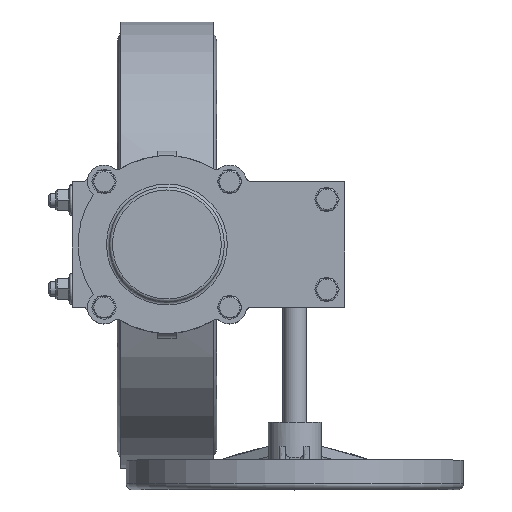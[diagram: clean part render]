
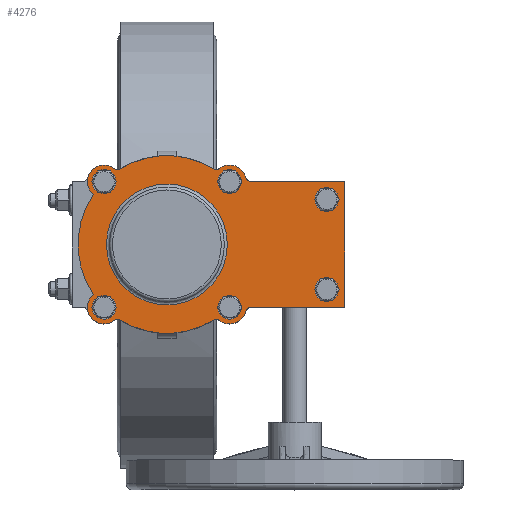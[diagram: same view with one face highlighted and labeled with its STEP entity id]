
A CAD part, top view. The second image highlights one B-rep face of the part: STEP entity #4276.
In plain terms, the highlighted planar face has unit normal (0, 0, 1).
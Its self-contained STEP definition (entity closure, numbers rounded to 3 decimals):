
#4276=ADVANCED_FACE('',(#8633,#8635,#8637,#8639,#8641,#8643,#8645,#8647),#8649,.T.);
#8633=FACE_BOUND('',#8634,.T.);
#8634=EDGE_LOOP('',(#15787,#15788,#15789,#15790,#15791,#15792,#15793,#15794,#15795,
#15796,#15797,#15798,#15799,#15800,#15801,#15802));
#8635=FACE_BOUND('',#8636,.T.);
#8636=EDGE_LOOP('',(#15803));
#8637=FACE_BOUND('',#8638,.T.);
#8638=EDGE_LOOP('',(#15804));
#8639=FACE_BOUND('',#8640,.T.);
#8640=EDGE_LOOP('',(#15805));
#8641=FACE_BOUND('',#8642,.T.);
#8642=EDGE_LOOP('',(#15806));
#8643=FACE_BOUND('',#8644,.T.);
#8644=EDGE_LOOP('',(#15807));
#8645=FACE_BOUND('',#8646,.T.);
#8646=EDGE_LOOP('',(#15808));
#8647=FACE_BOUND('',#8648,.T.);
#8648=EDGE_LOOP('',(#15809));
#8649=PLANE('',#8650);
#8650=AXIS2_PLACEMENT_3D('',#8651,#8652,#8653);
#8651=CARTESIAN_POINT('',(0.,0.,5.));
#8652=DIRECTION('',(0.,0.,1.));
#8653=DIRECTION('',(0.,1.,0.));
#15787=ORIENTED_EDGE('',*,*,#17778,.T.);
#15788=ORIENTED_EDGE('',*,*,#17779,.T.);
#15789=ORIENTED_EDGE('',*,*,#17780,.T.);
#15790=ORIENTED_EDGE('',*,*,#17781,.T.);
#15791=ORIENTED_EDGE('',*,*,#17782,.T.);
#15792=ORIENTED_EDGE('',*,*,#17783,.T.);
#15793=ORIENTED_EDGE('',*,*,#17784,.T.);
#15794=ORIENTED_EDGE('',*,*,#17785,.T.);
#15795=ORIENTED_EDGE('',*,*,#17786,.T.);
#15796=ORIENTED_EDGE('',*,*,#17787,.T.);
#15797=ORIENTED_EDGE('',*,*,#17788,.T.);
#15798=ORIENTED_EDGE('',*,*,#17789,.T.);
#15799=ORIENTED_EDGE('',*,*,#17790,.T.);
#15800=ORIENTED_EDGE('',*,*,#17791,.T.);
#15801=ORIENTED_EDGE('',*,*,#17792,.T.);
#15802=ORIENTED_EDGE('',*,*,#17793,.T.);
#15803=ORIENTED_EDGE('',*,*,#17794,.T.);
#15804=ORIENTED_EDGE('',*,*,#17795,.T.);
#15805=ORIENTED_EDGE('',*,*,#17796,.T.);
#15806=ORIENTED_EDGE('',*,*,#17797,.T.);
#15807=ORIENTED_EDGE('',*,*,#17798,.T.);
#15808=ORIENTED_EDGE('',*,*,#17799,.T.);
#15809=ORIENTED_EDGE('',*,*,#17800,.F.);
#17778=EDGE_CURVE('',#20291,#20292,#20293,.T.);
#17779=EDGE_CURVE('',#20292,#20294,#20295,.T.);
#17780=EDGE_CURVE('',#20294,#20296,#20297,.T.);
#17781=EDGE_CURVE('',#20296,#20298,#20299,.T.);
#17782=EDGE_CURVE('',#20298,#20300,#20301,.T.);
#17783=EDGE_CURVE('',#20300,#20302,#20303,.T.);
#17784=EDGE_CURVE('',#20302,#20304,#20305,.T.);
#17785=EDGE_CURVE('',#20304,#20306,#20307,.T.);
#17786=EDGE_CURVE('',#20306,#20308,#20309,.T.);
#17787=EDGE_CURVE('',#20308,#20310,#20311,.T.);
#17788=EDGE_CURVE('',#20310,#20312,#20313,.T.);
#17789=EDGE_CURVE('',#20312,#20314,#20315,.T.);
#17790=EDGE_CURVE('',#20314,#20316,#20317,.T.);
#17791=EDGE_CURVE('',#20316,#20318,#20319,.T.);
#17792=EDGE_CURVE('',#20318,#20320,#20321,.T.);
#17793=EDGE_CURVE('',#20320,#20291,#20322,.T.);
#17794=EDGE_CURVE('',#20323,#20323,#20324,.F.);
#17795=EDGE_CURVE('',#20325,#20325,#20326,.F.);
#17796=EDGE_CURVE('',#20327,#20327,#20328,.F.);
#17797=EDGE_CURVE('',#20329,#20329,#20330,.F.);
#17798=EDGE_CURVE('',#20331,#20331,#20332,.F.);
#17799=EDGE_CURVE('',#20333,#20333,#20334,.F.);
#17800=EDGE_CURVE('',#20335,#20335,#20336,.T.);
#20291=VERTEX_POINT('',#28132);
#20292=VERTEX_POINT('',#28133);
#20293=CIRCLE('',#28134,5.);
#20294=VERTEX_POINT('',#28138);
#20295=CIRCLE('',#28139,14.);
#20296=VERTEX_POINT('',#28143);
#20297=CIRCLE('',#28144,5.);
#20298=VERTEX_POINT('',#28148);
#20299=LINE('',#28149,#28150);
#20300=VERTEX_POINT('',#28152);
#20301=LINE('',#28153,#28154);
#20302=VERTEX_POINT('',#28156);
#20303=LINE('',#28157,#28158);
#20304=VERTEX_POINT('',#28160);
#20305=CIRCLE('',#28161,5.);
#20306=VERTEX_POINT('',#28165);
#20307=CIRCLE('',#28166,14.);
#20308=VERTEX_POINT('',#28170);
#20309=CIRCLE('',#28171,5.);
#20310=VERTEX_POINT('',#28175);
#20311=CIRCLE('',#28176,75.);
#20312=VERTEX_POINT('',#28180);
#20313=CIRCLE('',#28181,5.);
#20314=VERTEX_POINT('',#28185);
#20315=CIRCLE('',#28186,14.);
#20316=VERTEX_POINT('',#28190);
#20317=CIRCLE('',#28191,75.);
#20318=VERTEX_POINT('',#28195);
#20319=CIRCLE('',#28196,14.);
#20320=VERTEX_POINT('',#28200);
#20321=CIRCLE('',#28201,5.);
#20322=CIRCLE('',#28205,75.);
#20323=VERTEX_POINT('',#28209);
#20324=CIRCLE('',#28210,6.);
#20325=VERTEX_POINT('',#28214);
#20326=CIRCLE('',#28215,6.);
#20327=VERTEX_POINT('',#28219);
#20328=CIRCLE('',#28220,6.);
#20329=VERTEX_POINT('',#28224);
#20330=CIRCLE('',#28225,6.);
#20331=VERTEX_POINT('',#28229);
#20332=CIRCLE('',#28230,6.);
#20333=VERTEX_POINT('',#28234);
#20334=CIRCLE('',#28235,6.);
#20335=VERTEX_POINT('',#28239);
#20336=CIRCLE('',#28240,51.);
#28132=CARTESIAN_POINT('',(64.01,39.086,5.));
#28133=CARTESIAN_POINT('',(64.266,44.677,5.));
#28134=AXIS2_PLACEMENT_3D('',#28135,#28136,#28137);
#28135=CARTESIAN_POINT('',(68.277,41.692,5.));
#28136=DIRECTION('',(0.,0.,-1.));
#28137=DIRECTION('',(-0.853,-0.521,0.));
#28138=CARTESIAN_POINT('',(56.717,66.54,5.));
#28139=AXIS2_PLACEMENT_3D('',#28140,#28141,#28142);
#28140=CARTESIAN_POINT('',(53.033,53.033,5.));
#28141=DIRECTION('',(0.,0.,1.));
#28142=DIRECTION('',(0.802,-0.597,0.));
#28143=CARTESIAN_POINT('',(53.033,71.363,5.));
#28144=AXIS2_PLACEMENT_3D('',#28145,#28146,#28147);
#28145=CARTESIAN_POINT('',(58.033,71.363,5.));
#28146=DIRECTION('',(0.,0.,-1.));
#28147=DIRECTION('',(-0.263,-0.965,0.));
#28148=CARTESIAN_POINT('',(53.033,150.,5.));
#28149=CARTESIAN_POINT('',(53.033,71.363,5.));
#28150=VECTOR('',#28151,1.);
#28151=DIRECTION('',(0.,1.,0.));
#28152=CARTESIAN_POINT('',(-53.033,150.,5.));
#28153=CARTESIAN_POINT('',(53.033,150.,5.));
#28154=VECTOR('',#28155,1.);
#28155=DIRECTION('',(-1.,0.,0.));
#28156=CARTESIAN_POINT('',(-53.033,71.363,5.));
#28157=CARTESIAN_POINT('',(-53.033,150.,5.));
#28158=VECTOR('',#28159,1.);
#28159=DIRECTION('',(0.,-1.,0.));
#28160=CARTESIAN_POINT('',(-56.717,66.54,5.));
#28161=AXIS2_PLACEMENT_3D('',#28162,#28163,#28164);
#28162=CARTESIAN_POINT('',(-58.033,71.363,5.));
#28163=DIRECTION('',(0.,0.,-1.));
#28164=DIRECTION('',(1.,0.,0.));
#28165=CARTESIAN_POINT('',(-64.266,44.677,5.));
#28166=AXIS2_PLACEMENT_3D('',#28167,#28168,#28169);
#28167=CARTESIAN_POINT('',(-53.033,53.033,5.));
#28168=DIRECTION('',(0.,0.,1.));
#28169=DIRECTION('',(-0.263,0.965,0.));
#28170=CARTESIAN_POINT('',(-64.01,39.086,5.));
#28171=AXIS2_PLACEMENT_3D('',#28172,#28173,#28174);
#28172=CARTESIAN_POINT('',(-68.277,41.692,5.));
#28173=DIRECTION('',(0.,0.,-1.));
#28174=DIRECTION('',(0.802,0.597,0.));
#28175=CARTESIAN_POINT('',(-64.01,-39.086,5.));
#28176=AXIS2_PLACEMENT_3D('',#28177,#28178,#28179);
#28177=CARTESIAN_POINT('',(0.,0.,5.));
#28178=DIRECTION('',(0.,0.,1.));
#28179=DIRECTION('',(-0.853,0.521,0.));
#28180=CARTESIAN_POINT('',(-64.266,-44.677,5.));
#28181=AXIS2_PLACEMENT_3D('',#28182,#28183,#28184);
#28182=CARTESIAN_POINT('',(-68.277,-41.692,5.));
#28183=DIRECTION('',(0.,0.,-1.));
#28184=DIRECTION('',(0.853,0.521,0.));
#28185=CARTESIAN_POINT('',(-42.253,-61.965,5.));
#28186=AXIS2_PLACEMENT_3D('',#28187,#28188,#28189);
#28187=CARTESIAN_POINT('',(-53.033,-53.033,5.));
#28188=DIRECTION('',(0.,0.,1.));
#28189=DIRECTION('',(-0.802,0.597,0.));
#28190=CARTESIAN_POINT('',(42.253,-61.965,5.));
#28191=AXIS2_PLACEMENT_3D('',#28192,#28193,#28194);
#28192=CARTESIAN_POINT('',(0.,0.,5.));
#28193=DIRECTION('',(0.,0.,1.));
#28194=DIRECTION('',(-0.563,-0.826,0.));
#28195=CARTESIAN_POINT('',(64.266,-44.677,5.));
#28196=AXIS2_PLACEMENT_3D('',#28197,#28198,#28199);
#28197=CARTESIAN_POINT('',(53.033,-53.033,5.));
#28198=DIRECTION('',(0.,0.,1.));
#28199=DIRECTION('',(-0.77,-0.638,0.));
#28200=CARTESIAN_POINT('',(64.01,-39.086,5.));
#28201=AXIS2_PLACEMENT_3D('',#28202,#28203,#28204);
#28202=CARTESIAN_POINT('',(68.277,-41.692,5.));
#28203=DIRECTION('',(0.,0.,-1.));
#28204=DIRECTION('',(-0.802,-0.597,0.));
#28205=AXIS2_PLACEMENT_3D('',#28206,#28207,#28208);
#28206=CARTESIAN_POINT('',(0.,0.,5.));
#28207=DIRECTION('',(0.,0.,1.));
#28208=DIRECTION('',(0.853,-0.521,0.));
#28209=CARTESIAN_POINT('',(-32.033,135.,5.));
#28210=AXIS2_PLACEMENT_3D('',#28211,#28212,#28213);
#28211=CARTESIAN_POINT('',(-38.033,135.,5.));
#28212=DIRECTION('',(0.,0.,1.));
#28213=DIRECTION('',(1.,0.,0.));
#28214=CARTESIAN_POINT('',(44.033,135.,5.));
#28215=AXIS2_PLACEMENT_3D('',#28216,#28217,#28218);
#28216=CARTESIAN_POINT('',(38.033,135.,5.));
#28217=DIRECTION('',(0.,0.,1.));
#28218=DIRECTION('',(1.,0.,0.));
#28219=CARTESIAN_POINT('',(53.033,59.033,5.));
#28220=AXIS2_PLACEMENT_3D('',#28221,#28222,#28223);
#28221=CARTESIAN_POINT('',(53.033,53.033,5.));
#28222=DIRECTION('',(0.,0.,1.));
#28223=DIRECTION('',(0.,1.,0.));
#28224=CARTESIAN_POINT('',(59.033,-53.033,5.));
#28225=AXIS2_PLACEMENT_3D('',#28226,#28227,#28228);
#28226=CARTESIAN_POINT('',(53.033,-53.033,5.));
#28227=DIRECTION('',(0.,0.,1.));
#28228=DIRECTION('',(1.,0.,0.));
#28229=CARTESIAN_POINT('',(-53.033,-59.033,5.));
#28230=AXIS2_PLACEMENT_3D('',#28231,#28232,#28233);
#28231=CARTESIAN_POINT('',(-53.033,-53.033,5.));
#28232=DIRECTION('',(0.,0.,1.));
#28233=DIRECTION('',(0.,-1.,0.));
#28234=CARTESIAN_POINT('',(-59.033,53.033,5.));
#28235=AXIS2_PLACEMENT_3D('',#28236,#28237,#28238);
#28236=CARTESIAN_POINT('',(-53.033,53.033,5.));
#28237=DIRECTION('',(0.,0.,1.));
#28238=DIRECTION('',(-1.,0.,0.));
#28239=CARTESIAN_POINT('',(-51.,0.,5.));
#28240=AXIS2_PLACEMENT_3D('',#28241,#28242,#28243);
#28241=CARTESIAN_POINT('',(0.,0.,5.));
#28242=DIRECTION('',(0.,0.,1.));
#28243=DIRECTION('',(-1.,0.,0.));
